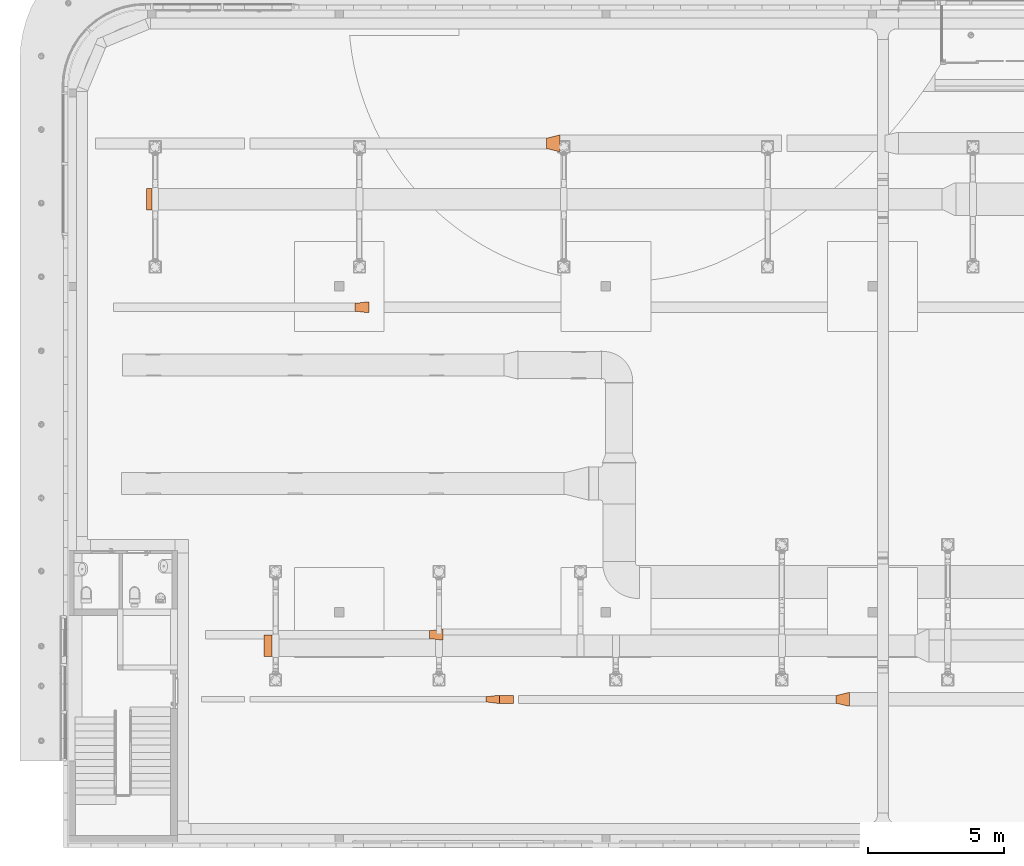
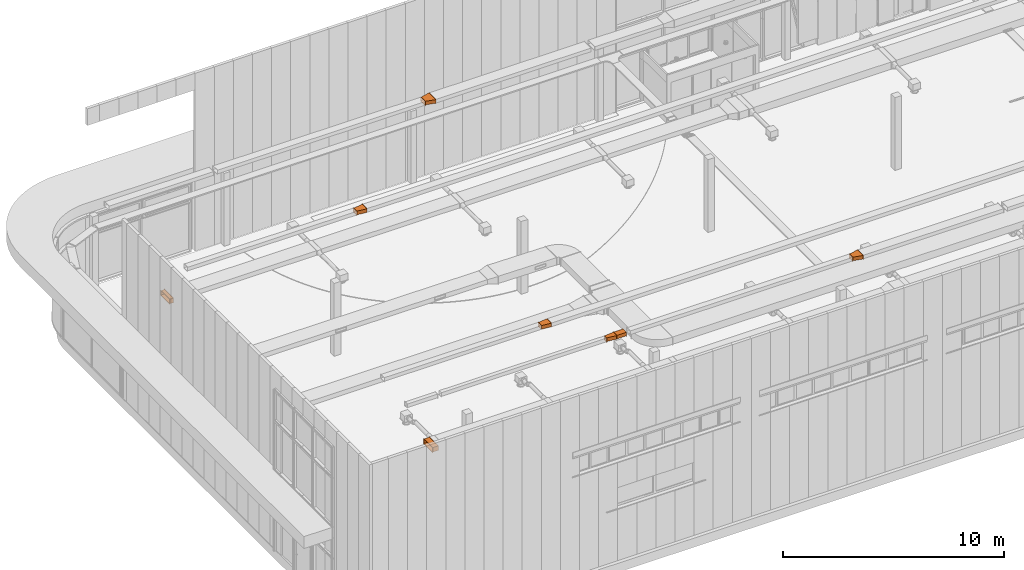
# One storey, part 302 of 302: 8 proxies.
"""IFC2X3 building model written with IfcOpenShell, lengths in metres."""

from ifc_helpers import new_model, entity, si_unit, converted_unit, derived_unit, direction, frame, origin, place, context, subcontext, project, spatial, face_set, surface_model, type_object, element, save


model = new_model("IFC2X3")

# Units and contexts
model_context = context("Model", 3, precision=1e-05, world=origin(), true_north=direction((6.12303176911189e-17, 1.0)))
body_context = subcontext(model_context, "Body", "Model", "MODEL_VIEW")
ifc_project = project(units=[si_unit("LENGTHUNIT", "METRE"), si_unit("AREAUNIT", "SQUARE_METRE"), si_unit("VOLUMEUNIT", "CUBIC_METRE"), converted_unit("PLANEANGLEUNIT", "DEGREE", entity("IfcRatioMeasure", 0.0174532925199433), si_unit("PLANEANGLEUNIT", "RADIAN"), dimensions=[0, 0, 0, 0, 0, 0, 0]), si_unit("MASSUNIT", "GRAM", prefix="KILO"), derived_unit("MASSDENSITYUNIT", [(si_unit("MASSUNIT", "GRAM", prefix="KILO"), 1), (si_unit("LENGTHUNIT", "METRE"), -3)]), derived_unit("MOMENTOFINERTIAUNIT", [(si_unit("LENGTHUNIT", "METRE"), 4)]), si_unit("TIMEUNIT", "SECOND"), si_unit("FREQUENCYUNIT", "HERTZ"), si_unit("THERMODYNAMICTEMPERATUREUNIT", "DEGREE_CELSIUS"), derived_unit("THERMALTRANSMITTANCEUNIT", [(si_unit("MASSUNIT", "GRAM", prefix="KILO"), 1), (si_unit("THERMODYNAMICTEMPERATUREUNIT", "KELVIN"), -1), (si_unit("TIMEUNIT", "SECOND"), -3)]), derived_unit("VOLUMETRICFLOWRATEUNIT", [(si_unit("LENGTHUNIT", "METRE"), 3), (si_unit("TIMEUNIT", "SECOND"), -1)]), si_unit("ELECTRICCURRENTUNIT", "AMPERE"), si_unit("ELECTRICVOLTAGEUNIT", "VOLT"), si_unit("POWERUNIT", "WATT"), si_unit("FORCEUNIT", "NEWTON", prefix="KILO"), si_unit("ILLUMINANCEUNIT", "LUX"), si_unit("LUMINOUSFLUXUNIT", "LUMEN"), si_unit("LUMINOUSINTENSITYUNIT", "CANDELA"), derived_unit("USERDEFINED", [(si_unit("MASSUNIT", "GRAM", prefix="KILO"), -1), (si_unit("LENGTHUNIT", "METRE"), -2), (si_unit("TIMEUNIT", "SECOND"), 3), (si_unit("LUMINOUSFLUXUNIT", "LUMEN"), 1)]), derived_unit("LINEARVELOCITYUNIT", [(si_unit("LENGTHUNIT", "METRE"), 1), (si_unit("TIMEUNIT", "SECOND"), -1)]), si_unit("PRESSUREUNIT", "PASCAL"), derived_unit("USERDEFINED", [(si_unit("LENGTHUNIT", "METRE"), -2), (si_unit("MASSUNIT", "GRAM", prefix="KILO"), 1), (si_unit("TIMEUNIT", "SECOND"), -2)]), derived_unit("LINEARFORCEUNIT", [(si_unit("MASSUNIT", "GRAM", prefix="KILO"), 1), (si_unit("LENGTHUNIT", "METRE"), 1), (si_unit("TIMEUNIT", "SECOND"), -2), (si_unit("LENGTHUNIT", "METRE"), -1)]), derived_unit("PLANARFORCEUNIT", [(si_unit("MASSUNIT", "GRAM", prefix="KILO"), 1), (si_unit("LENGTHUNIT", "METRE"), 1), (si_unit("TIMEUNIT", "SECOND"), -2), (si_unit("LENGTHUNIT", "METRE"), -2)])], contexts=[model_context])

# Site, building, storey
site_placement = place(None, origin())
site = spatial("IfcSite", under=ifc_project, at=site_placement, Name="Default", CompositionType="ELEMENT")
building_placement = place(site_placement, origin())
building = spatial("IfcBuilding", under=site, at=building_placement, CompositionType="ELEMENT")
storey_placement = place(building_placement, frame((0.0, 0.0, -1.3)))
storey = spatial("IfcBuildingStorey", under=building, at=storey_placement, Name="00_EG", CompositionType="ELEMENT", Elevation=-1.3)

# Proxies
building_element_proxy_type_1 = type_object("IfcBuildingElementProxyType", Name="Straight:Vorgabe", PredefinedType="NOTDEFINED")
proxy_1_placement = place(storey_placement, frame((-263.790172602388, 38.1828258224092, 4.75960000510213)))
element("IfcBuildingElementProxy", 1, at=proxy_1_placement, inside=storey, type_object=building_element_proxy_type_1, Name="Straight:Vorgabe", ObjectType="Straight:Vorgabe", context=body_context, shape_type="SurfaceModel", body=[
    surface_model("IfcFaceBasedSurfaceModel", [(0.0, 0.0253999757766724, 0.275399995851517), (0.188948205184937, 0.0253999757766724, 0.275399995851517), (0.188948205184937, 0.825399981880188, 0.275399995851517), (0.0, 0.825399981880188, 0.275399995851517), (0.188948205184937, 0.825399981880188, 0.0253999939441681), (0.0, 0.825399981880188, 0.0253999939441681), (0.188948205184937, 0.0253999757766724, 0.0253999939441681), (0.0, 0.0253999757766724, 0.0253999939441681), (1.00000003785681e-06, 0.0, 0.0), (1.00000003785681e-06, 0.0, 0.300799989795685), (1.00000003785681e-06, 0.850799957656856, 0.300799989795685), (1.00000003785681e-06, 0.850799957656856, 0.0), (0.188947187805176, 0.850799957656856, 0.0), (0.188947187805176, 0.850799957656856, 0.300799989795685), (0.188947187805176, 0.0, 0.300799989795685), (0.188947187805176, 0.0, 0.0)], [face_set([[[0, 1, 2]], [[2, 3, 0]], [[3, 2, 4]], [[4, 5, 3]], [[5, 4, 6]], [[6, 7, 5]], [[7, 6, 1]], [[1, 0, 7]], [[8, 7, 0]], [[0, 9, 8]], [[9, 0, 3]], [[3, 10, 9]], [[10, 3, 5]], [[5, 11, 10]], [[11, 5, 7]], [[7, 8, 11]], [[12, 4, 2]], [[2, 13, 12]], [[13, 2, 1]], [[1, 14, 13]], [[14, 1, 6]], [[6, 15, 14]], [[15, 6, 4]], [[4, 12, 15]]])]),
])
building_element_proxy_type_2 = type_object("IfcBuildingElementProxyType", Name="Straight:Vorgabe", PredefinedType="NOTDEFINED")
proxy_2_placement = place(storey_placement, frame((-259.482826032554, 21.796415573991, 4.97460000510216)))
element("IfcBuildingElementProxy", 2, at=proxy_2_placement, inside=storey, type_object=building_element_proxy_type_2, Name="Straight:Vorgabe", ObjectType="Straight:Vorgabe", context=body_context, shape_type="SurfaceModel", body=[
    surface_model("IfcFaceBasedSurfaceModel", [(0.0, 0.0253999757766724, 0.275399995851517), (0.298351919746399, 0.0253999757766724, 0.275399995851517), (0.298351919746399, 0.825399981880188, 0.275399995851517), (0.0, 0.825399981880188, 0.275399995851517), (0.298351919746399, 0.825399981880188, 0.0253999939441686), (0.0, 0.825399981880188, 0.0253999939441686), (0.298351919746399, 0.0253999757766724, 0.0253999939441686), (0.0, 0.0253999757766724, 0.0253999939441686), (1.00000003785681e-06, 0.0, 0.0), (1.00000003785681e-06, 0.0, 0.300799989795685), (1.00000003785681e-06, 0.85079995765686, 0.300799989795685), (1.00000003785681e-06, 0.85079995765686, 0.0), (0.298350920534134, 0.85079995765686, 0.0), (0.298350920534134, 0.85079995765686, 0.300799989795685), (0.298350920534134, 0.0, 0.300799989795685), (0.298350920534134, 0.0, 0.0)], [face_set([[[0, 1, 2]], [[2, 3, 0]], [[3, 2, 4]], [[4, 5, 3]], [[5, 4, 6]], [[6, 7, 5]], [[7, 6, 1]], [[1, 0, 7]], [[8, 7, 0]], [[0, 9, 8]], [[9, 0, 3]], [[3, 10, 9]], [[10, 3, 5]], [[5, 11, 10]], [[11, 5, 7]], [[7, 8, 11]], [[12, 4, 2]], [[2, 13, 12]], [[13, 2, 1]], [[1, 14, 13]], [[14, 1, 6]], [[6, 15, 14]], [[15, 6, 4]], [[4, 12, 15]]])]),
])
building_element_proxy_type_3 = type_object("IfcBuildingElementProxyType", Name="Transition:Vorgabe", PredefinedType="NOTDEFINED")
proxy_3_placement = place(storey_placement, frame((-249.117143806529, 40.3346826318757, 9.25459999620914)))
element("IfcBuildingElementProxy", 3, at=proxy_3_placement, inside=storey, type_object=building_element_proxy_type_3, Name="Transition:Vorgabe", ObjectType="Transition:Vorgabe", context=body_context, shape_type="SurfaceModel", body=[
    surface_model("IfcFaceBasedSurfaceModel", [(0.450000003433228, 0.625399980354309, 0.225400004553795), (0.0500000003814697, 0.52539997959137, 0.225400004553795), (0.0500000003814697, 0.125399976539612, 0.225400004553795), (0.450000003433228, 0.0253999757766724, 0.225400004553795), (0.450000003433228, 0.0253999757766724, 0.025400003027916), (0.0500000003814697, 0.125399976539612, 0.025400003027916), (0.0500000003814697, 0.52539997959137, 0.025400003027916), (0.450000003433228, 0.625399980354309, 0.025400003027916), (0.500000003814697, 0.0253999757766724, 0.225400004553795), (0.500000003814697, 0.625399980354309, 0.225400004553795), (0.0, 0.52539997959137, 0.225400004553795), (0.0, 0.125399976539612, 0.225400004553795), (0.500000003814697, 0.625399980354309, 0.025400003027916), (0.500000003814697, 0.0253999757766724, 0.025400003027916), (0.0, 0.125399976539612, 0.025400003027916), (0.0, 0.52539997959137, 0.025400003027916), (0.499999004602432, 0.650799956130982, 0.0), (0.499999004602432, 0.650799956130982, 0.250800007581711), (0.499999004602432, 0.0, 0.250800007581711), (0.499999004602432, 0.0, 0.0), (1.01737976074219e-06, 0.0999999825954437, 0.0), (1.01737976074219e-06, 0.0999999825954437, 0.250800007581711), (1.01737976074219e-06, 0.550799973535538, 0.250800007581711), (1.01737976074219e-06, 0.550799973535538, 0.0)], [face_set([[[0, 1, 2]], [[2, 3, 0]], [[4, 5, 6]], [[6, 7, 4]], [[3, 2, 5]], [[5, 4, 3]], [[7, 6, 1]], [[1, 0, 7]], [[0, 3, 8]], [[8, 9, 0]], [[1, 10, 11]], [[11, 2, 1]], [[12, 13, 4]], [[4, 7, 12]], [[5, 14, 15]], [[15, 6, 5]], [[3, 4, 13]], [[13, 8, 3]], [[2, 11, 14]], [[14, 5, 2]], [[9, 12, 7]], [[7, 0, 9]], [[6, 15, 10]], [[10, 1, 6]], [[16, 12, 9]], [[9, 17, 16]], [[17, 9, 8]], [[8, 18, 17]], [[18, 8, 13]], [[13, 19, 18]], [[19, 13, 12]], [[12, 16, 19]], [[20, 14, 11]], [[11, 21, 20]], [[21, 11, 10]], [[10, 22, 21]], [[22, 10, 15]], [[15, 23, 22]], [[23, 15, 14]], [[14, 20, 23]]])]),
])
building_element_proxy_type_4 = type_object("IfcBuildingElementProxyType", Name="Transition:Vorgabe", PredefinedType="NOTDEFINED")
proxy_4_placement = place(storey_placement, frame((-238.49448156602, 19.9778096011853, 9.25459999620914)))
element("IfcBuildingElementProxy", 4, at=proxy_4_placement, inside=storey, type_object=building_element_proxy_type_4, Name="Transition:Vorgabe", ObjectType="Transition:Vorgabe", context=body_context, shape_type="SurfaceModel", body=[
    surface_model("IfcFaceBasedSurfaceModel", [(0.450000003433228, 0.525399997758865, 0.225400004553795), (0.0500000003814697, 0.425399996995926, 0.225400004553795), (0.0500000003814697, 0.125399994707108, 0.225400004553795), (0.450000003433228, 0.0253999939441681, 0.225400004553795), (0.450000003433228, 0.0253999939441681, 0.025400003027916), (0.0500000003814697, 0.125399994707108, 0.025400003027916), (0.0500000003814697, 0.425399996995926, 0.025400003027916), (0.450000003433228, 0.525399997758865, 0.025400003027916), (0.500000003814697, 0.0253999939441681, 0.225400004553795), (0.500000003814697, 0.525399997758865, 0.225400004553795), (0.0, 0.425399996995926, 0.225400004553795), (0.0, 0.125399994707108, 0.225400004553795), (0.500000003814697, 0.525399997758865, 0.025400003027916), (0.500000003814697, 0.0253999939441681, 0.025400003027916), (0.0, 0.125399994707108, 0.025400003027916), (0.0, 0.425399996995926, 0.025400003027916), (0.499999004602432, 0.550799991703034, 0.0), (0.499999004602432, 0.550799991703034, 0.250800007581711), (0.499999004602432, 0.0, 0.250800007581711), (0.499999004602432, 0.0, 0.0), (1.01737976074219e-06, 0.100000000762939, 0.0), (1.01737976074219e-06, 0.100000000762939, 0.250800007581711), (1.01737976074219e-06, 0.450799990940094, 0.250800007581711), (1.01737976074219e-06, 0.450799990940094, 0.0)], [face_set([[[0, 1, 2]], [[2, 3, 0]], [[4, 5, 6]], [[6, 7, 4]], [[3, 2, 5]], [[5, 4, 3]], [[7, 6, 1]], [[1, 0, 7]], [[0, 3, 8]], [[8, 9, 0]], [[1, 10, 11]], [[11, 2, 1]], [[12, 13, 4]], [[4, 7, 12]], [[5, 14, 15]], [[15, 6, 5]], [[3, 4, 13]], [[13, 8, 3]], [[2, 11, 14]], [[14, 5, 2]], [[9, 12, 7]], [[7, 0, 9]], [[6, 15, 10]], [[10, 1, 6]], [[16, 12, 9]], [[9, 17, 16]], [[17, 9, 8]], [[8, 18, 17]], [[18, 8, 13]], [[13, 19, 18]], [[19, 13, 12]], [[12, 16, 19]], [[20, 14, 11]], [[11, 21, 20]], [[21, 11, 10]], [[10, 22, 21]], [[22, 10, 15]], [[15, 23, 22]], [[23, 15, 14]], [[14, 20, 23]]])]),
])
building_element_proxy_type_5 = type_object("IfcBuildingElementProxyType", Name="Transition:Vorgabe", PredefinedType="NOTDEFINED")
proxy_5_placement = place(storey_placement, frame((-256.137315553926, 34.419362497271, 9.25459999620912)))
element("IfcBuildingElementProxy", 5, at=proxy_5_placement, inside=storey, type_object=building_element_proxy_type_5, Name="Transition:Vorgabe", ObjectType="Transition:Vorgabe", context=body_context, shape_type="SurfaceModel", body=[
    surface_model("IfcFaceBasedSurfaceModel", [(0.450000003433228, 0.425399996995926, 0.225400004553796), (0.0500000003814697, 0.375399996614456, 0.225400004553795), (0.0500000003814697, 0.0753999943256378, 0.225400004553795), (0.450000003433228, 0.0253999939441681, 0.225400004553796), (0.450000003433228, 0.0253999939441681, 0.025400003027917), (0.0500000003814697, 0.0753999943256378, 0.025400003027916), (0.0500000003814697, 0.375399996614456, 0.025400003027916), (0.450000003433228, 0.425399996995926, 0.025400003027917), (0.500000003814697, 0.0253999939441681, 0.225400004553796), (0.500000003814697, 0.425399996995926, 0.225400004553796), (0.0, 0.375399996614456, 0.225400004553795), (0.0, 0.0753999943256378, 0.225400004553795), (0.500000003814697, 0.425399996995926, 0.025400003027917), (0.500000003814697, 0.0253999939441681, 0.025400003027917), (0.0, 0.0753999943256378, 0.025400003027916), (0.0, 0.375399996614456, 0.025400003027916), (0.499999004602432, 0.450799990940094, 0.0), (0.499999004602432, 0.450799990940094, 0.250800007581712), (0.499999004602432, 0.0, 0.250800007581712), (0.499999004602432, 0.0, 0.0), (1.01737976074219e-06, 0.0500000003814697, 0.0), (1.01737976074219e-06, 0.0500000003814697, 0.250800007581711), (1.01737976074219e-06, 0.400799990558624, 0.250800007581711), (1.01737976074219e-06, 0.400799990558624, 0.0)], [face_set([[[0, 1, 2]], [[2, 3, 0]], [[4, 5, 6]], [[6, 7, 4]], [[3, 2, 5]], [[5, 4, 3]], [[7, 6, 1]], [[1, 0, 7]], [[0, 3, 8]], [[8, 9, 0]], [[1, 10, 11]], [[11, 2, 1]], [[12, 13, 4]], [[4, 7, 12]], [[5, 14, 15]], [[15, 6, 5]], [[3, 4, 13]], [[13, 8, 3]], [[2, 11, 14]], [[14, 5, 2]], [[9, 12, 7]], [[7, 0, 9]], [[6, 15, 10]], [[10, 1, 6]], [[16, 12, 9]], [[9, 17, 16]], [[17, 9, 8]], [[8, 18, 17]], [[18, 8, 13]], [[13, 19, 18]], [[19, 13, 12]], [[12, 16, 19]], [[20, 14, 11]], [[11, 21, 20]], [[21, 11, 10]], [[10, 22, 21]], [[22, 10, 15]], [[15, 23, 22]], [[23, 15, 14]], [[14, 20, 23]]])]),
])
building_element_proxy_type_6 = type_object("IfcBuildingElementProxyType", Name="Transition:Vorgabe", PredefinedType="NOTDEFINED")
proxy_6_placement = place(storey_placement, frame((-253.413023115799, 22.4026708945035, 9.25459999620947)))
element("IfcBuildingElementProxy", 6, at=proxy_6_placement, inside=storey, type_object=building_element_proxy_type_6, Name="Transition:Vorgabe", ObjectType="Transition:Vorgabe", context=body_context, shape_type="SurfaceModel", body=[
    surface_model("IfcFaceBasedSurfaceModel", [(0.450000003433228, 0.425399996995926, 0.2254000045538), (0.0500000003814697, 0.375399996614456, 0.225400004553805), (0.0500000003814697, 0.0753999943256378, 0.2254000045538), (0.450000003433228, 0.0253999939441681, 0.225400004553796), (0.450000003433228, 0.0253999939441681, 0.025400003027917), (0.0500000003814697, 0.0753999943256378, 0.0254000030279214), (0.0500000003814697, 0.375399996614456, 0.0254000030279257), (0.450000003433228, 0.425399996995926, 0.0254000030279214), (0.500000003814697, 0.0253999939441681, 0.225400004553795), (0.500000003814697, 0.425399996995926, 0.225400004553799), (0.0, 0.375399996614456, 0.225400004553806), (0.0, 0.0753999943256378, 0.225400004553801), (0.500000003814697, 0.425399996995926, 0.0254000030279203), (0.500000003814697, 0.0253999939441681, 0.025400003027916), (0.0, 0.0753999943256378, 0.0254000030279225), (0.0, 0.375399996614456, 0.0254000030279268), (0.499999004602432, 0.450799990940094, 0.0), (0.499999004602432, 0.450799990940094, 0.250800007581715), (0.499999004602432, 0.0, 0.250800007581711), (0.499999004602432, 0.0, 0.0), (1.01737976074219e-06, 0.0500000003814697, 0.0), (1.01737976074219e-06, 0.0500000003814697, 0.250800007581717), (1.01737976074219e-06, 0.400799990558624, 0.250800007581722), (1.01737976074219e-06, 0.400799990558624, 0.0)], [face_set([[[0, 1, 2]], [[2, 3, 0]], [[4, 5, 6]], [[6, 7, 4]], [[3, 2, 5]], [[5, 4, 3]], [[7, 6, 1]], [[1, 0, 7]], [[0, 3, 8]], [[8, 9, 0]], [[1, 10, 11]], [[11, 2, 1]], [[12, 13, 4]], [[4, 7, 12]], [[5, 14, 15]], [[15, 6, 5]], [[3, 4, 13]], [[13, 8, 3]], [[2, 11, 14]], [[14, 5, 2]], [[9, 12, 7]], [[7, 0, 9]], [[6, 15, 10]], [[10, 1, 6]], [[16, 12, 9]], [[9, 17, 16]], [[17, 9, 8]], [[8, 18, 17]], [[18, 8, 13]], [[13, 19, 18]], [[19, 13, 12]], [[12, 16, 19]], [[20, 14, 11]], [[11, 21, 20]], [[21, 11, 10]], [[10, 22, 21]], [[22, 10, 15]], [[15, 23, 22]], [[23, 15, 14]], [[14, 20, 23]]])]),
])
building_element_proxy_type_7 = type_object("IfcBuildingElementProxyType", Name="Transition:Vorgabe", PredefinedType="NOTDEFINED")
proxy_7_placement = place(storey_placement, frame((-251.34293241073, 20.0778096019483, 9.25459999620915)))
element("IfcBuildingElementProxy", 7, at=proxy_7_placement, inside=storey, type_object=building_element_proxy_type_7, Name="Transition:Vorgabe", ObjectType="Transition:Vorgabe", context=body_context, shape_type="SurfaceModel", body=[
    surface_model("IfcFaceBasedSurfaceModel", [(0.450000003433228, 0.325399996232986, 0.225400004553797), (0.0500000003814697, 0.275399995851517, 0.2254000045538), (0.0500000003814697, 0.0753999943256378, 0.225400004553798), (0.450000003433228, 0.0253999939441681, 0.225400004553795), (0.450000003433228, 0.0253999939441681, 0.025400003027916), (0.0500000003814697, 0.0753999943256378, 0.0254000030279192), (0.0500000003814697, 0.275399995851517, 0.0254000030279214), (0.450000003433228, 0.325399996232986, 0.0254000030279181), (0.500000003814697, 0.0253999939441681, 0.225400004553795), (0.500000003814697, 0.325399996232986, 0.225400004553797), (0.0, 0.275399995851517, 0.2254000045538), (0.0, 0.0753999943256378, 0.225400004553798), (0.500000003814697, 0.325399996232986, 0.0254000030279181), (0.500000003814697, 0.0253999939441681, 0.025400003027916), (0.0, 0.0753999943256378, 0.0254000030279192), (0.0, 0.275399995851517, 0.0254000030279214), (0.499999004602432, 0.350799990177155, 0.0), (0.499999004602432, 0.350799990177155, 0.250800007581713), (0.499999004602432, 0.0, 0.250800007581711), (0.499999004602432, 0.0, 0.0), (1.01737976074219e-06, 0.0499999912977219, 0.0), (1.01737976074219e-06, 0.0499999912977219, 0.250800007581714), (1.01737976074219e-06, 0.300799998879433, 0.250800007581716), (1.01737976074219e-06, 0.300799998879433, 0.0)], [face_set([[[0, 1, 2]], [[2, 3, 0]], [[4, 5, 6]], [[6, 7, 4]], [[3, 2, 5]], [[5, 4, 3]], [[7, 6, 1]], [[1, 0, 7]], [[0, 3, 8]], [[8, 9, 0]], [[1, 10, 11]], [[11, 2, 1]], [[12, 13, 4]], [[4, 7, 12]], [[5, 14, 15]], [[15, 6, 5]], [[3, 4, 13]], [[13, 8, 3]], [[2, 11, 14]], [[14, 5, 2]], [[9, 12, 7]], [[7, 0, 9]], [[6, 15, 10]], [[10, 1, 6]], [[16, 12, 9]], [[9, 17, 16]], [[17, 9, 8]], [[8, 18, 17]], [[18, 8, 13]], [[13, 19, 18]], [[19, 13, 12]], [[12, 16, 19]], [[20, 14, 11]], [[11, 21, 20]], [[21, 11, 10]], [[10, 22, 21]], [[22, 10, 15]], [[15, 23, 22]], [[23, 15, 14]], [[14, 20, 23]]])]),
])
building_element_proxy_type_8 = type_object("IfcBuildingElementProxyType", Name="Straight:Vorgabe", PredefinedType="NOTDEFINED")
proxy_8_placement = place(storey_placement, frame((-250.84293240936, 20.0778096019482, 9.25459999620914)))
element("IfcBuildingElementProxy", 8, at=proxy_8_placement, inside=storey, type_object=building_element_proxy_type_8, Name="Straight:Vorgabe", ObjectType="Straight:Vorgabe", context=body_context, shape_type="SurfaceModel", body=[
    surface_model("IfcFaceBasedSurfaceModel", [(0.506849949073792, 0.325399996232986, 0.225400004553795), (0.0, 0.325399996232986, 0.225400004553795), (0.0, 0.0253999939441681, 0.225400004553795), (0.506849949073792, 0.0253999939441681, 0.225400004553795), (0.0, 0.0253999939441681, 0.025400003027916), (0.506849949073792, 0.0253999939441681, 0.025400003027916), (0.0, 0.325399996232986, 0.025400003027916), (0.506849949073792, 0.325399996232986, 0.025400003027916), (0.506848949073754, 0.350799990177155, 0.0), (0.506848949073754, 0.350799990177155, 0.250800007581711), (0.506848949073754, 0.0, 0.250800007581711), (0.506848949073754, 0.0, 0.0), (1.01737976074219e-06, 0.0, 0.0), (1.01737976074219e-06, 0.0, 0.250800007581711), (1.01737976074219e-06, 0.350799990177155, 0.250800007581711), (1.01737976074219e-06, 0.350799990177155, 0.0)], [face_set([[[0, 1, 2]], [[2, 3, 0]], [[3, 2, 4]], [[4, 5, 3]], [[5, 4, 6]], [[6, 7, 5]], [[7, 6, 1]], [[1, 0, 7]], [[8, 7, 0]], [[0, 9, 8]], [[9, 0, 3]], [[3, 10, 9]], [[10, 3, 5]], [[5, 11, 10]], [[11, 5, 7]], [[7, 8, 11]], [[12, 4, 2]], [[2, 13, 12]], [[13, 2, 1]], [[1, 14, 13]], [[14, 1, 6]], [[6, 15, 14]], [[15, 6, 4]], [[4, 12, 15]]])]),
])

save(model, "model.ifc")
